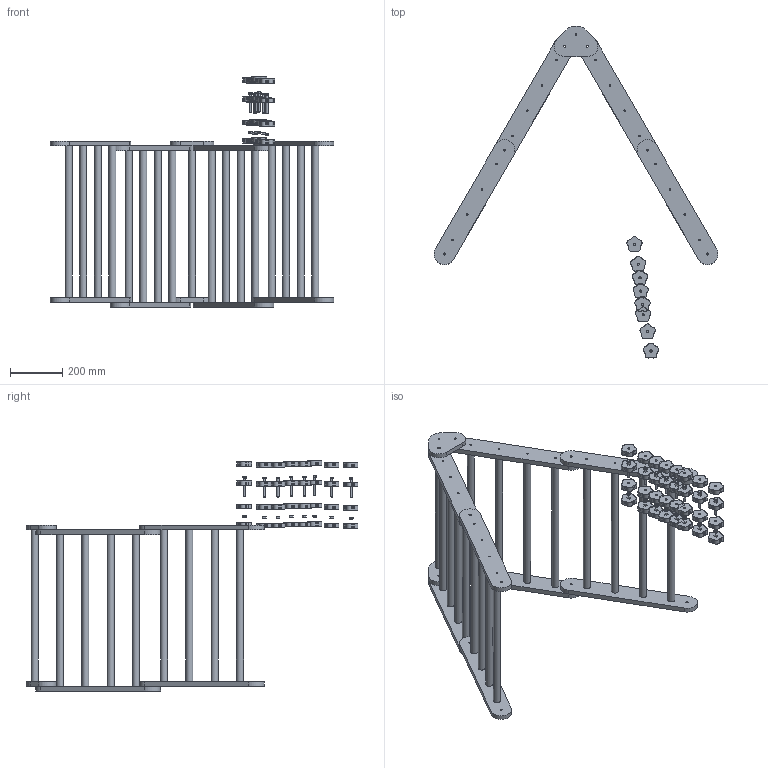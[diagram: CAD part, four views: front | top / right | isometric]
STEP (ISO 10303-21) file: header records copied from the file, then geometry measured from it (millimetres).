
FILE_DESCRIPTION(/* description */ (''),/* implementation_level */ '2;1');
FILE_NAME(/* name */ 'C:\Users\tim\OneDrive\Projekte\PiklerDreieck\PiklerDreieck.stp',/* time_stamp */ '2022-01-24T12:01:20+01:00',/* author */ ('tim'),/* organization */ (''),/* preprocessor_version */ 'ST-DEVELOPER v18.1',/* originating_system */ 'Autodesk Inventor 2022',/* authorisation */ '');
FILE_SCHEMA (('AUTOMOTIVE_DESIGN { 1 0 10303 214 3 1 1 }'));
Length unit declared in the file: millimetre
Products named in the file (14): PiklerDreieck; Skelett; Segment; Wange1; Wange2; Blume; GiebelAssy; Giebel1; Giebel2; Strebe; Griff; ISO 8674 - M8 x 1; ISO 4014 - M8 x 70; GriffTeil1
Assembly tree (31 placements, depth 3):
  PiklerDreieck
    Skelett
    Segment  x4
      Blume
      Wange1
      Wange2
      Strebe
    GiebelAssy
      Giebel1
      Giebel2
      Strebe
    Griff  x8
      ISO 8674 - M8 x 1
      ISO 4014 - M8 x 70
      GriffTeil1
Bounding box: 1087.68 x 1272.46 x 882.53 mm (x, y, z)
Volume: 13482212.7 mm3; surface area: 2241907.8 mm2
Topology: 83 solids, 83 shells, 2237 faces, 5801 edges, 3832 vertices
Faces by surface type: cylinder 1537, plane 578, cone 122
Full cylindrical faces by diameter (mm): 3 x34, 6 x34, 6.917 x8, 8 x36, 8.3 x32, 11.63 x8, 27 x51
Entity records: 12263 total; most frequent: DIRECTION 2325, CARTESIAN_POINT 2048, ORIENTED_EDGE 1912, AXIS2_PLACEMENT_3D 985, EDGE_CURVE 956, VERTEX_POINT 635, CIRCLE 577, EDGE_LOOP 427
